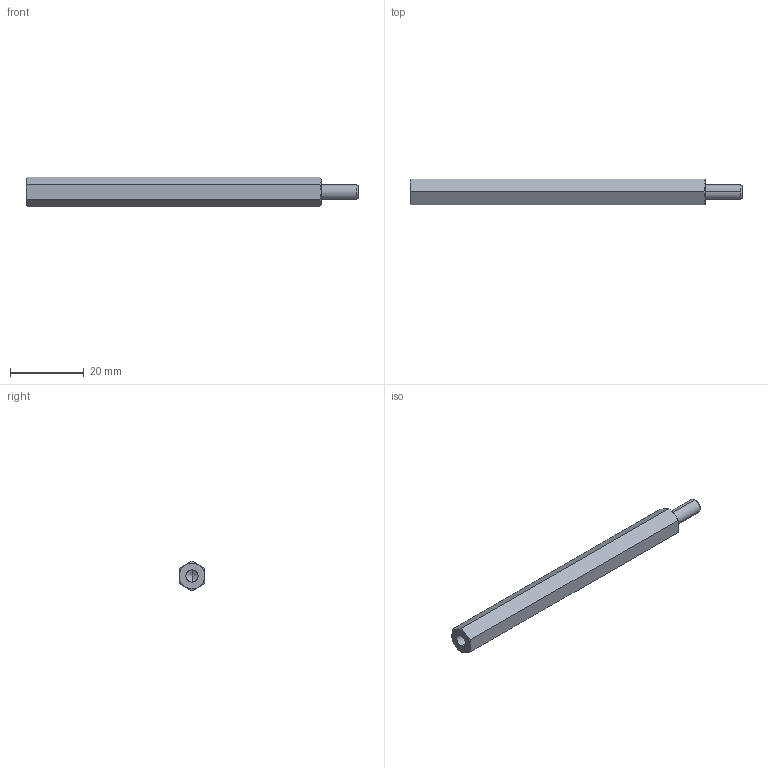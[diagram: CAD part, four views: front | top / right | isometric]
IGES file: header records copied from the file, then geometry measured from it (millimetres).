
Start section: SolidWorks IGES file using analytic representation for surfaces
Global section: file name: C:\Users\render1\Desktop\P0185_IGES\P0185.04-80.igs; native system: SolidWorks 2009; preprocessor: SolidWorks 2009; author: render1; date: 130627.112321; units: millimetre
Bounding box: 90 x 7 x 8.08 mm (x, y, z)
Surface area: 2248.7 mm2 (no closed solid volume)
Topology: 0 solids, 0 shells, 29 faces, 320 edges, 318 vertices
Faces by surface type: revolution 20, bspline 9
